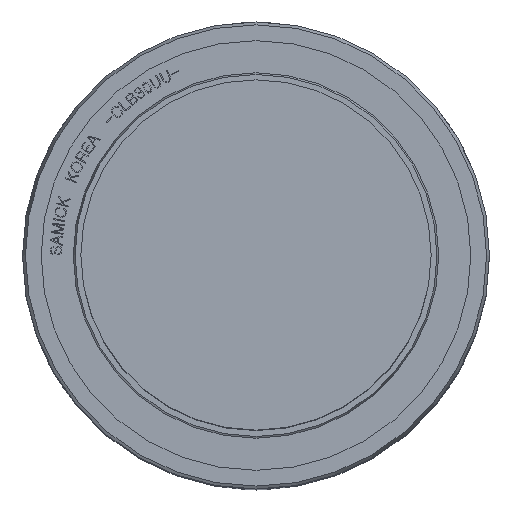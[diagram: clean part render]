
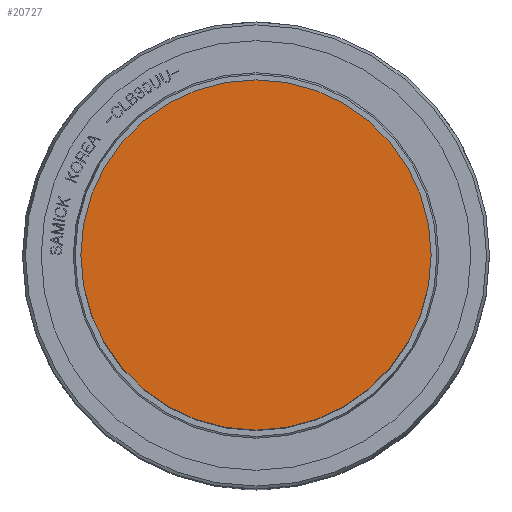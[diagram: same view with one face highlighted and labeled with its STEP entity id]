
A CAD part, top view. The second image highlights one B-rep face of the part: STEP entity #20727.
In plain terms, the highlighted planar face has unit normal (0, 0, 1).
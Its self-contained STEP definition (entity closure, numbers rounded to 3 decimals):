
#788=PLANE('',#22020);
#2722=FACE_OUTER_BOUND('',#3864,.T.);
#3864=EDGE_LOOP('',(#13755));
#7978=CIRCLE('',#22016,15.);
#8278=VERTEX_POINT('',#26239);
#10433=EDGE_CURVE('',#8278,#8278,#7978,.T.);
#13755=ORIENTED_EDGE('',*,*,#10433,.T.);
#20727=ADVANCED_FACE('',(#2722),#788,.F.);
#22016=AXIS2_PLACEMENT_3D('',#26241,#23048,#23049);
#22020=AXIS2_PLACEMENT_3D('',#26248,#23057,#23058);
#23048=DIRECTION('center_axis',(0.,0.,1.));
#23049=DIRECTION('ref_axis',(1.,0.,0.));
#23057=DIRECTION('center_axis',(0.,0.,-1.));
#23058=DIRECTION('ref_axis',(-1.,0.,0.));
#26239=CARTESIAN_POINT('',(-15.,0.,50.));
#26241=CARTESIAN_POINT('Origin',(0.,0.,50.));
#26248=CARTESIAN_POINT('Origin',(0.,0.,
50.));
